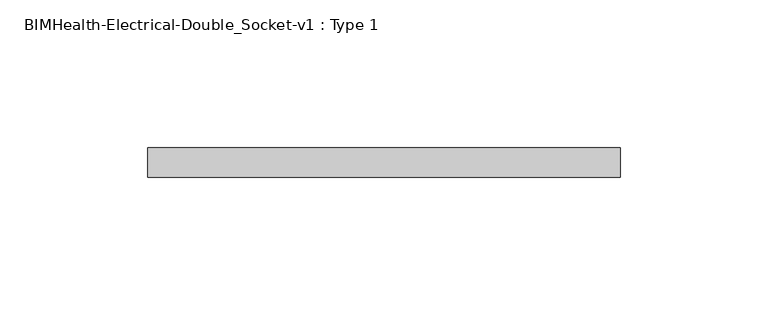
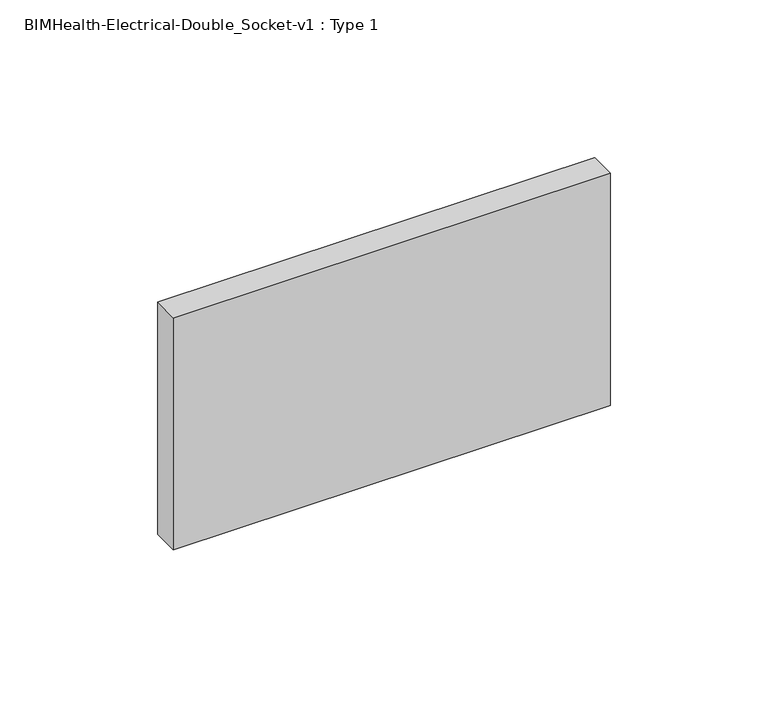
"""IFC4 building model written with IfcOpenShell, lengths in millimetres: proxy geometry, BIMHealth-Electrical-Double_Socket-v1 : Type 1."""

from ifc_helpers import new_model, si_unit, frame, origin, place, context, project, spatial, polyline, outline, extrude, source, transform, mapped, element, save


def bimhealth_electrical_double_socket_v1_type_1_da0f6ee8(model_context):
    return source(origin(), model_context, "Body", "SweptSolid", [
        extrude(outline(polyline([(285.0, 87.5), (125.0, 87.5), (125.0, 97.5), (285.0, 97.5), (285.0, 87.5)])), frame((0.0, 0.0, 450.0), z_axis=(0.0, 0.0, 1.0), x_axis=(1.0, 0.0, 0.0)), (0.0, 0.0, 1.0), 90.0),
    ])


if __name__ == "__main__":
    model = new_model("IFC4")
    model_context = context("Model", 3, world=origin())
    ifc_project = project(units=[si_unit("LENGTHUNIT", "METRE", prefix="MILLI")], contexts=[model_context])
    site = spatial("IfcSite", under=ifc_project)
    building = spatial("IfcBuilding", under=site)
    placement = place(None, origin())
    bimhealth_electrical_double_socket_v1_type_1_shape = bimhealth_electrical_double_socket_v1_type_1_da0f6ee8(model_context)
    element("IfcBuildingElementProxy", 1, Name="BIMHealth-Electrical-Double_Socket-v1 : Type 1", ObjectType="BIMHealth-Electrical-Double_Socket-v1 : Type 1", at=placement, inside=building, context=model_context, shape_type="MappedRepresentation", body=[
        mapped(bimhealth_electrical_double_socket_v1_type_1_shape, transform((0.0, 0.0, 0.0), x_axis=(1.0, 0.0, 0.0), y_axis=(0.0, 1.0, 0.0), z_axis=(0.0, 0.0, 1.0))),
    ])
    save(model, "model.ifc")
